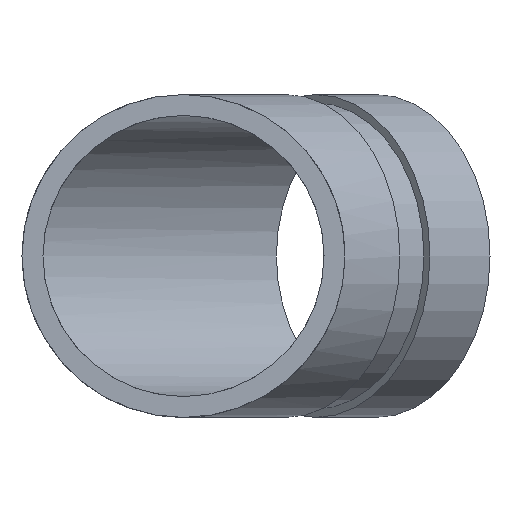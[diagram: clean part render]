
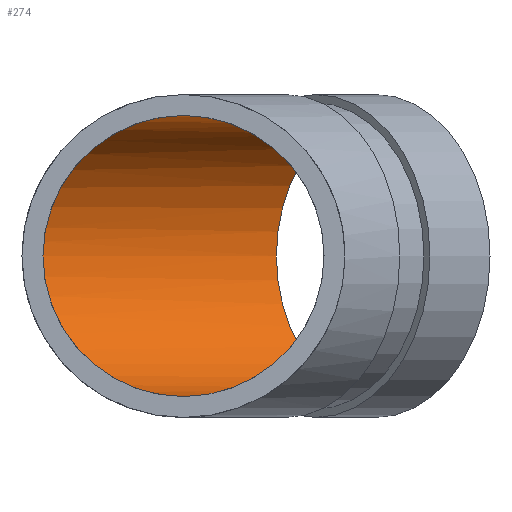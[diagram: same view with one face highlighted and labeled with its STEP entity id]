
A CAD part, front view. The second image highlights one B-rep face of the part: STEP entity #274.
In plain terms, the highlighted cylindrical face has radius 26.251 mm (diameter 52.502 mm), a full revolution.
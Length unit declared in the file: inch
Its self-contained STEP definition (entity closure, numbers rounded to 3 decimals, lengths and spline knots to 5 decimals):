
#45=ELLIPSE('',#322,1.11865,1.0335);
#46=ELLIPSE('',#323,1.11865,1.0335);
#47=ELLIPSE('',#324,1.11865,1.0335);
#72=FACE_OUTER_BOUND('',#90,.T.);
#90=EDGE_LOOP('',(#219,#220,#221,#222,#223,#224));
#102=LINE('',#510,#110);
#110=VECTOR('',#413,1.0335);
#128=CIRCLE('',#327,1.0335);
#143=VERTEX_POINT('',#498);
#144=VERTEX_POINT('',#499);
#145=VERTEX_POINT('',#501);
#147=VERTEX_POINT('',#508);
#169=EDGE_CURVE('',#143,#144,#45,.T.);
#170=EDGE_CURVE('',#143,#145,#46,.T.);
#171=EDGE_CURVE('',#144,#145,#47,.T.);
#174=EDGE_CURVE('',#147,#147,#128,.T.);
#175=EDGE_CURVE('',#147,#144,#102,.T.);
#219=ORIENTED_EDGE('',*,*,#174,.F.);
#220=ORIENTED_EDGE('',*,*,#175,.T.);
#221=ORIENTED_EDGE('',*,*,#171,.T.);
#222=ORIENTED_EDGE('',*,*,#170,.F.);
#223=ORIENTED_EDGE('',*,*,#169,.T.);
#224=ORIENTED_EDGE('',*,*,#175,.F.);
#246=CYLINDRICAL_SURFACE('',#326,1.0335);
#274=ADVANCED_FACE('',(#72),#246,.F.);
#322=AXIS2_PLACEMENT_3D('',#500,#400,#401);
#323=AXIS2_PLACEMENT_3D('',#502,#402,#403);
#324=AXIS2_PLACEMENT_3D('',#503,#404,#405);
#326=AXIS2_PLACEMENT_3D('',#507,#409,#410);
#327=AXIS2_PLACEMENT_3D('',#509,#411,#412);
#400=DIRECTION('center_axis',(-0.383,-0.924,0.));
#401=DIRECTION('ref_axis',(0.924,-0.383,0.));
#402=DIRECTION('center_axis',(0.383,0.924,0.));
#403=DIRECTION('ref_axis',(0.924,-0.383,0.));
#404=DIRECTION('center_axis',(-0.383,-0.924,0.));
#405=DIRECTION('ref_axis',(0.924,-0.383,0.));
#409=DIRECTION('center_axis',(-0.707,-0.707,0.));
#410=DIRECTION('ref_axis',(0.707,-0.707,0.));
#411=DIRECTION('center_axis',(-0.707,-0.707,0.));
#412=DIRECTION('ref_axis',(0.707,-0.707,0.));
#413=DIRECTION('',(-0.707,-0.707,0.));
#498=CARTESIAN_POINT('',(0.,0.,1.0335));
#499=CARTESIAN_POINT('',(-1.0335,0.42809,0.));
#500=CARTESIAN_POINT('Origin',(0.,0.,
0.));
#501=CARTESIAN_POINT('',(0.,0.,-1.0335));
#502=CARTESIAN_POINT('Origin',(0.,0.,0.));
#503=CARTESIAN_POINT('Origin',(0.,0.,
0.));
#507=CARTESIAN_POINT('Origin',(1.41421,1.41421,0.));
#508=CARTESIAN_POINT('',(0.68342,2.14501,0.));
#509=CARTESIAN_POINT('Origin',(1.41421,1.41421,0.));
#510=CARTESIAN_POINT('',(0.68342,2.14501,0.));
